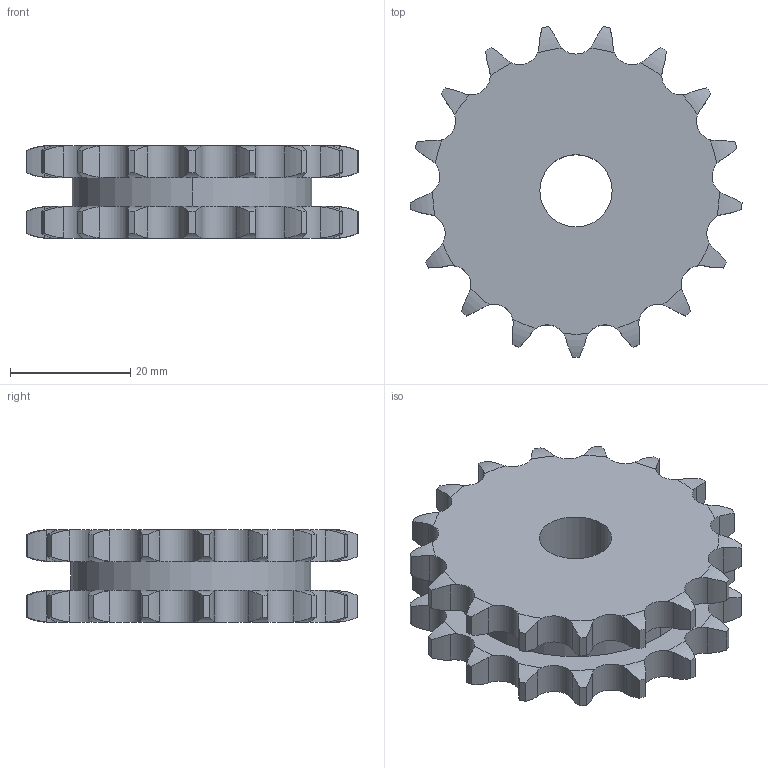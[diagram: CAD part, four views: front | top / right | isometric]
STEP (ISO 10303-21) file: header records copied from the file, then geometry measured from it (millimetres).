
FILE_DESCRIPTION((''),'2;1');
FILE_NAME('500-102-0017_PRT','2021-02-12T',('Brieden'),('Brieden'),'PRO/ENGINEER BY PARAMETRIC TECHNOLOGY CORPORATION, 2010160','PRO/ENGINEER BY PARAMETRIC TECHNOLOGY CORPORATION, 2010160','');
FILE_SCHEMA(('AUTOMOTIVE_DESIGN { 1 0 10303 214 1 1 1 1 }'));
Length unit declared in the file: millimetre
Products named in the file (1): 500-102-0017_PRT
Bounding box: 55.15 x 54.92 x 15.4 mm (x, y, z)
Volume: 24185.5 mm3; surface area: 8490 mm2
Topology: 1 solids, 1 shells, 212 faces, 624 edges, 416 vertices
Faces by surface type: cylinder 140, torus 68, plane 4
Entity records: 10118 total; most frequent: CARTESIAN_POINT 2851, ORIENTED_EDGE 1248, DIRECTION 988, PRESENTATION_STYLE_ASSIGNMENT 625, STYLED_ITEM 625, CURVE_STYLE 624, EDGE_CURVE 624, AXIS2_PLACEMENT_3D 424
